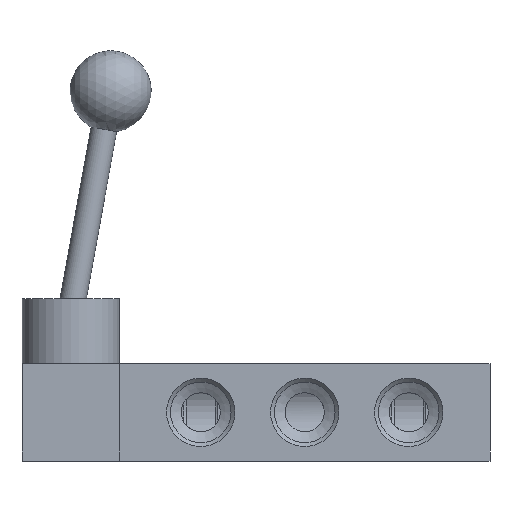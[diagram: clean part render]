
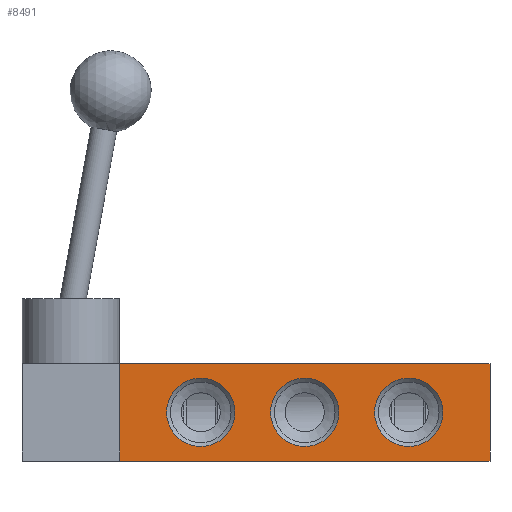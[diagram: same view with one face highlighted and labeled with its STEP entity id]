
A CAD part, front view. The second image highlights one B-rep face of the part: STEP entity #8491.
In plain terms, the highlighted planar face has unit normal (0, -1, 0).
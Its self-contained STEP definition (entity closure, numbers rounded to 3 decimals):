
#467=LINE('',#11109,#1011);
#471=LINE('',#11173,#1015);
#475=LINE('',#11188,#1019);
#476=LINE('',#11189,#1020);
#1011=VECTOR('',#9529,1000.);
#1015=VECTOR('',#9599,1000.);
#1019=VECTOR('',#9611,1000.);
#1020=VECTOR('',#9612,1000.);
#1787=ORIENTED_EDGE('',*,*,#3373,.T.);
#1788=ORIENTED_EDGE('',*,*,#3374,.T.);
#1789=ORIENTED_EDGE('',*,*,#3375,.T.);
#1790=ORIENTED_EDGE('',*,*,#3369,.F.);
#1791=ORIENTED_EDGE('',*,*,#3376,.F.);
#1792=ORIENTED_EDGE('',*,*,#3342,.F.);
#1793=ORIENTED_EDGE('',*,*,#3377,.F.);
#3342=EDGE_CURVE('',#4160,#4161,#467,.T.);
#3369=EDGE_CURVE('',#4187,#4188,#471,.T.);
#3373=EDGE_CURVE('',#4191,#4191,#4701,.T.);
#3374=EDGE_CURVE('',#4192,#4192,#4702,.T.);
#3375=EDGE_CURVE('',#4193,#4193,#4703,.T.);
#3376=EDGE_CURVE('',#4161,#4187,#475,.T.);
#3377=EDGE_CURVE('',#4188,#4160,#476,.T.);
#4160=VERTEX_POINT('',#11110);
#4161=VERTEX_POINT('',#11111);
#4187=VERTEX_POINT('',#11174);
#4188=VERTEX_POINT('',#11175);
#4191=VERTEX_POINT('',#11183);
#4192=VERTEX_POINT('',#11185);
#4193=VERTEX_POINT('',#11187);
#4701=CIRCLE('',#8935,10.516);
#4702=CIRCLE('',#8936,10.516);
#4703=CIRCLE('',#8937,10.516);
#4903=EDGE_LOOP('',(#1787));
#4904=EDGE_LOOP('',(#1788));
#4905=EDGE_LOOP('',(#1789));
#4906=EDGE_LOOP('',(#1790,#1791,#1792,#1793));
#5391=FACE_BOUND('',#4903,.T.);
#5392=FACE_BOUND('',#4904,.T.);
#5393=FACE_BOUND('',#4905,.T.);
#5394=FACE_BOUND('',#4906,.T.);
#5790=PLANE('',#8934);
#8491=ADVANCED_FACE('',(#5391,#5392,#5393,#5394),#5790,.F.);
#8934=AXIS2_PLACEMENT_3D('',#11181,#9603,#9604);
#8935=AXIS2_PLACEMENT_3D('',#11182,#9605,#9606);
#8936=AXIS2_PLACEMENT_3D('',#11184,#9607,#9608);
#8937=AXIS2_PLACEMENT_3D('',#11186,#9609,#9610);
#9529=DIRECTION('',(0.,0.,-1.));
#9599=DIRECTION('',(0.,0.,1.));
#9603=DIRECTION('',(0.,1.,0.));
#9604=DIRECTION('',(1.,0.,0.));
#9605=DIRECTION('',(0.,1.,0.));
#9606=DIRECTION('',(1.,0.,0.));
#9607=DIRECTION('',(0.,1.,0.));
#9608=DIRECTION('',(1.,0.,0.));
#9609=DIRECTION('',(0.,1.,0.));
#9610=DIRECTION('',(1.,0.,0.));
#9611=DIRECTION('',(-1.,0.,0.));
#9612=DIRECTION('',(1.,0.,0.));
#11109=CARTESIAN_POINT('',(0.,-30.,15.));
#11110=CARTESIAN_POINT('',(0.,-30.,15.));
#11111=CARTESIAN_POINT('',(0.,-30.,-15.));
#11173=CARTESIAN_POINT('',(-114.,-30.,-15.));
#11174=CARTESIAN_POINT('',(-114.,-30.,-15.));
#11175=CARTESIAN_POINT('',(-114.,-30.,15.));
#11181=CARTESIAN_POINT('',(-114.,-30.,15.));
#11182=CARTESIAN_POINT('',(-25.,-30.,0.));
#11183=CARTESIAN_POINT('',(-14.485,-30.,0.));
#11184=CARTESIAN_POINT('',(-57.,-30.,0.));
#11185=CARTESIAN_POINT('',(-46.485,-30.,0.));
#11186=CARTESIAN_POINT('',(-89.,-30.,0.));
#11187=CARTESIAN_POINT('',(-78.485,-30.,0.));
#11188=CARTESIAN_POINT('',(0.,-30.,-15.));
#11189=CARTESIAN_POINT('',(-114.,-30.,15.));
